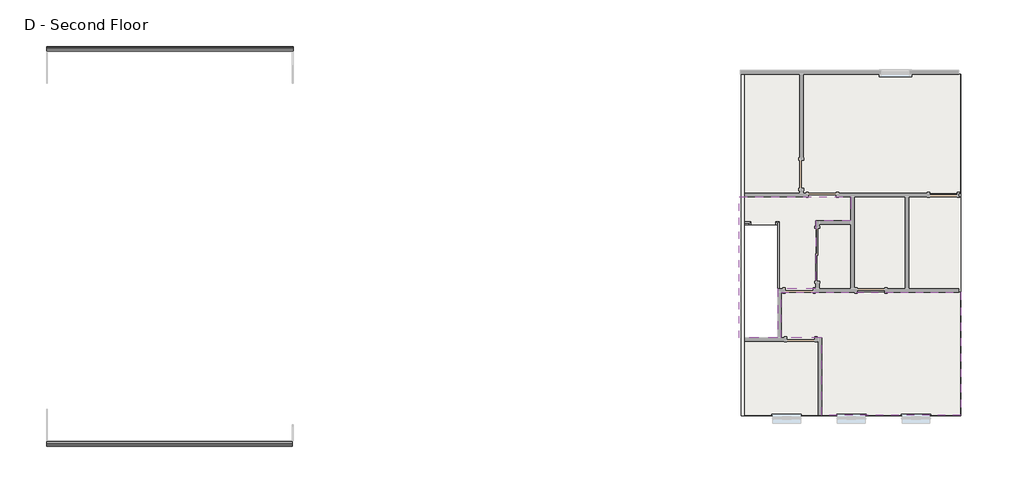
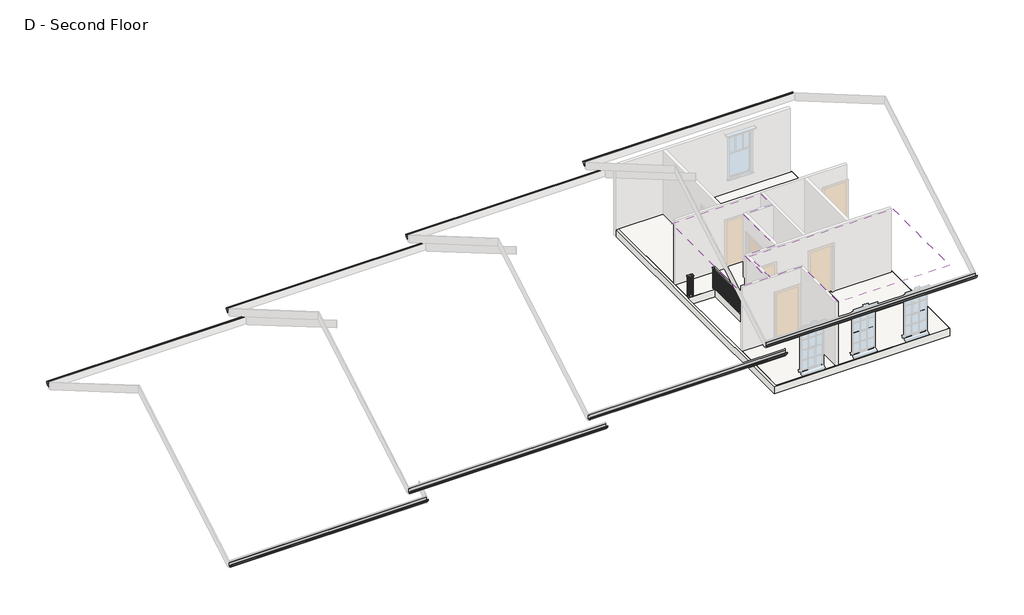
# One storey, part 2 of 2: 2 coverings, 2 railings, 2 slabs, 1 pipe segment.
"""IFC4 building model written with IfcOpenShell, lengths in millimetres."""

from ifc_helpers import new_model, si_unit, point, frame, frame_2d, origin, place, context, project, spatial, polyline, circle_curve, trimmed, segment, composite_curve, outline, extrude, faceted_brep, element, save

model = new_model("IFC4")

# Units and contexts
model_context = context("Model", 3, world=origin())
ifc_project = project(units=[si_unit("LENGTHUNIT", "METRE", prefix="MILLI")], contexts=[model_context])

# Site, building, storey
site = spatial("IfcSite", under=ifc_project)
building = spatial("IfcBuilding", under=site)
storey = spatial("IfcBuildingStorey", under=building, Name="D - Second Floor", Elevation=5200.65)

# Coverings
placement = place(None, origin())
element("IfcCovering", 1, ObjectType="GWB on Furring", at=placement, inside=storey, context=model_context, shape_type="SweptSolid", body=[
    extrude(outline(polyline([(17813.8120514, -7122.7539462), (13257.6870514, -7122.7539462), (13257.6870514, -4582.7539462), (11936.8870514, -4582.7539462), (11936.8870514, -3096.8539462), (17813.8120514, -3096.8539462), (17813.8120514, -7122.7539462)])), frame((0.0, 0.0, 7918.45), z_axis=(0.0, 0.0, 1.0), x_axis=(1.0, 0.0, 0.0)), (0.0, 0.0, 1.0), 31.75),
])
element("IfcCovering", 2, ObjectType="GWB on Furring", at=placement, inside=storey, context=model_context, shape_type="SweptSolid", body=[
    extrude(outline(polyline([(10565.2870514, -4582.7539462), (10565.2870514, 40.0460538), (14213.3620514, 40.0460538), (14213.3620514, -747.3539462), (13057.6620514, -747.3539462), (13057.6620514, -2982.5539462), (11822.5870514, -2982.5539462), (11822.5870514, -4582.7539462), (10565.2870514, -4582.7539462)])), frame((0.0, 0.0, 7918.45), z_axis=(0.0, 0.0, 1.0), x_axis=(1.0, 0.0, 0.0)), (0.0, 0.0, 1.0), 31.75),
])

# Pipe segment
element("IfcPipeSegment", 3, ObjectType="Gutter - Bevel 6\" x 6\"", at=placement, inside=storey, context=model_context, shape_type="SweptSolid", body=[
    extrude(outline(composite_curve([segment(polyline([(-7983.1789462, 5929.1694956), (-8059.3789462, 5929.1694956), (-8059.3789462, 5948.2194956)]), True, "CONTINUOUS"), segment(trimmed(circle_curve(frame_2d((-7979.9880787, 6059.7502961)), 136.9015314), [point((-8059.3789462, 5948.2194956))], [point((-8116.5289462, 6049.8194956))], False, "CARTESIAN"), True, "CONTINUOUS"), segment(polyline([(-8116.5289462, 6049.8194956), (-8135.5789462, 6049.8194956), (-8135.5789462, 6068.8694956), (-8116.5289462, 6068.8694956), (-8116.5289462, 6065.6944956), (-8132.4039462, 6065.6944956), (-8132.4039462, 6052.9944956), (-8113.5438512, 6052.9944956)]), True, "CONTINUOUS"), segment(trimmed(circle_curve(frame_2d((-7979.9880787, 6059.750296)), 133.7265314), [point((-8113.5438512, 6052.9944956))], [point((-8056.2039462, 5949.8688747))], True, "CARTESIAN"), True, "CONTINUOUS"), segment(polyline([(-8056.2039462, 5949.8688747), (-8056.2039462, 5932.3444956), (-7986.3539462, 5932.3444956), (-7986.3539462, 6081.5694956), (-7983.1789462, 6081.5694956), (-7983.1789462, 5929.1694956)]), True, "CONTINUOUS")], self_intersect=False)), frame((-12142.3129486, 0.0, 0.0), z_axis=(1.0, 0.0, 0.0), x_axis=(0.0, 1.0, 0.0)), (0.0, 0.0, 1.0), 8058.15),
    extrude(outline(composite_curve([segment(polyline([(-7983.1789462, 6538.7694956), (-8059.3789462, 6538.7694956), (-8059.3789462, 6557.8194956)]), True, "CONTINUOUS"), segment(trimmed(circle_curve(frame_2d((-7979.9880787, 6669.3502961)), 136.9015314), [point((-8059.3789462, 6557.8194956))], [point((-8116.5289462, 6659.4194956))], False, "CARTESIAN"), True, "CONTINUOUS"), segment(polyline([(-8116.5289462, 6659.4194956), (-8135.5789462, 6659.4194956), (-8135.5789462, 6678.4694956), (-8116.5289462, 6678.4694956), (-8116.5289462, 6675.2944956), (-8132.4039462, 6675.2944956), (-8132.4039462, 6662.5944956), (-8113.5438512, 6662.5944956)]), True, "CONTINUOUS"), segment(trimmed(circle_curve(frame_2d((-7979.9880787, 6669.350296)), 133.7265314), [point((-8113.5438512, 6662.5944956))], [point((-8056.2039462, 6559.4688747))], True, "CARTESIAN"), True, "CONTINUOUS"), segment(polyline([(-8056.2039462, 6559.4688747), (-8056.2039462, 6541.9444956), (-7986.3539462, 6541.9444956), (-7986.3539462, 6691.1694956), (-7983.1789462, 6691.1694956), (-7983.1789462, 6538.7694956)]), True, "CONTINUOUS")], self_intersect=False)), frame((-4801.7129486, 0.0, 0.0), z_axis=(1.0, 0.0, 0.0), x_axis=(0.0, 1.0, 0.0)), (0.0, 0.0, 1.0), 8058.15),
    extrude(outline(composite_curve([segment(polyline([(-7983.1789462, 7148.3694956), (-8059.3789462, 7148.3694956), (-8059.3789462, 7167.4194956)]), True, "CONTINUOUS"), segment(trimmed(circle_curve(frame_2d((-7979.9880787, 7278.9502961)), 136.9015314), [point((-8059.3789462, 7167.4194956))], [point((-8116.5289462, 7269.0194956))], False, "CARTESIAN"), True, "CONTINUOUS"), segment(polyline([(-8116.5289462, 7269.0194956), (-8135.5789462, 7269.0194956), (-8135.5789462, 7288.0694956), (-8116.5289462, 7288.0694956), (-8116.5289462, 7284.8944956), (-8132.4039462, 7284.8944956), (-8132.4039462, 7272.1944956), (-8113.5438512, 7272.1944956)]), True, "CONTINUOUS"), segment(trimmed(circle_curve(frame_2d((-7979.9880787, 7278.950296)), 133.7265314), [point((-8113.5438512, 7272.1944956))], [point((-8056.2039462, 7169.0688747))], True, "CARTESIAN"), True, "CONTINUOUS"), segment(polyline([(-8056.2039462, 7169.0688747), (-8056.2039462, 7151.5444956), (-7986.3539462, 7151.5444956), (-7986.3539462, 7300.7694956), (-7983.1789462, 7300.7694956), (-7983.1789462, 7148.3694956)]), True, "CONTINUOUS")], self_intersect=False)), frame((2538.8870514, 0.0, 0.0), z_axis=(1.0, 0.0, 0.0), x_axis=(0.0, 1.0, 0.0)), (0.0, 0.0, 1.0), 8058.15),
    extrude(outline(composite_curve([segment(polyline([(-7983.1789462, 7757.9694956), (-8059.3789462, 7757.9694956), (-8059.3789462, 7777.0194956)]), True, "CONTINUOUS"), segment(trimmed(circle_curve(frame_2d((-7979.9880787, 7888.5502961)), 136.9015314), [point((-8059.3789462, 7777.0194956))], [point((-8116.5289462, 7878.6194956))], False, "CARTESIAN"), True, "CONTINUOUS"), segment(polyline([(-8116.5289462, 7878.6194956), (-8135.5789462, 7878.6194956), (-8135.5789462, 7897.6694956), (-8116.5289462, 7897.6694956), (-8116.5289462, 7894.4944956), (-8132.4039462, 7894.4944956), (-8132.4039462, 7881.7944956), (-8113.5438512, 7881.7944956)]), True, "CONTINUOUS"), segment(trimmed(circle_curve(frame_2d((-7979.9880787, 7888.550296)), 133.7265314), [point((-8113.5438512, 7881.7944956))], [point((-8056.2039462, 7778.6688747))], True, "CARTESIAN"), True, "CONTINUOUS"), segment(polyline([(-8056.2039462, 7778.6688747), (-8056.2039462, 7761.1444956), (-7986.3539462, 7761.1444956), (-7986.3539462, 7910.3694956), (-7983.1789462, 7910.3694956), (-7983.1789462, 7757.9694956)]), True, "CONTINUOUS")], self_intersect=False)), frame((9790.5870514, 0.0, 0.0), z_axis=(1.0, 0.0, 0.0), x_axis=(0.0, 1.0, 0.0)), (0.0, 0.0, 1.0), 8572.5),
    extrude(outline(composite_curve([segment(polyline([(4802.5460538, 7757.9694956), (4802.5460538, 7910.3694956), (4805.7210538, 7910.3694956), (4805.7210538, 7761.1444956), (4875.5710538, 7761.1444956), (4875.5710538, 7778.6688747)]), True, "CONTINUOUS"), segment(trimmed(circle_curve(frame_2d((4799.3551862, 7888.550296)), 133.7265314), [point((4875.5710538, 7778.6688747))], [point((4932.9109587, 7881.7944956))], True, "CARTESIAN"), True, "CONTINUOUS"), segment(polyline([(4932.9109587, 7881.7944956), (4951.7710538, 7881.7944956), (4951.7710538, 7894.4944956), (4935.8960538, 7894.4944956), (4935.8960538, 7897.6694956), (4954.9460538, 7897.6694956), (4954.9460538, 7878.6194956), (4935.8960538, 7878.6194956)]), True, "CONTINUOUS"), segment(trimmed(circle_curve(frame_2d((4799.3551862, 7888.5502961)), 136.9015314), [point((4935.8960538, 7878.6194956))], [point((4878.7460538, 7777.0194956))], False, "CARTESIAN"), True, "CONTINUOUS"), segment(polyline([(4878.7460538, 7777.0194956), (4878.7460538, 7757.9694956), (4802.5460538, 7757.9694956)]), True, "CONTINUOUS")], self_intersect=False)), frame((9790.5870514, 0.0, 0.0), z_axis=(1.0, 0.0, 0.0), x_axis=(0.0, 1.0, 0.0)), (0.0, 0.0, 1.0), 8572.5),
    extrude(outline(composite_curve([segment(polyline([(4802.5460538, 7148.3694956), (4802.5460538, 7300.7694956), (4805.7210538, 7300.7694956), (4805.7210538, 7151.5444956), (4875.5710538, 7151.5444956), (4875.5710538, 7169.0688747)]), True, "CONTINUOUS"), segment(trimmed(circle_curve(frame_2d((4799.3551862, 7278.950296)), 133.7265314), [point((4875.5710538, 7169.0688747))], [point((4932.9109587, 7272.1944956))], True, "CARTESIAN"), True, "CONTINUOUS"), segment(polyline([(4932.9109587, 7272.1944956), (4951.7710538, 7272.1944956), (4951.7710538, 7284.8944956), (4935.8960538, 7284.8944956), (4935.8960538, 7288.0694956), (4954.9460538, 7288.0694956), (4954.9460538, 7269.0194956), (4935.8960538, 7269.0194956)]), True, "CONTINUOUS"), segment(trimmed(circle_curve(frame_2d((4799.3551862, 7278.9502961)), 136.9015314), [point((4935.8960538, 7269.0194956))], [point((4878.7460538, 7167.4194956))], False, "CARTESIAN"), True, "CONTINUOUS"), segment(polyline([(4878.7460538, 7167.4194956), (4878.7460538, 7148.3694956), (4802.5460538, 7148.3694956)]), True, "CONTINUOUS")], self_intersect=False)), frame((2538.8870514, 0.0, 0.0), z_axis=(1.0, 0.0, 0.0), x_axis=(0.0, 1.0, 0.0)), (0.0, 0.0, 1.0), 8077.2),
    extrude(outline(composite_curve([segment(polyline([(4802.5460538, 6538.7694956), (4802.5460538, 6691.1694956), (4805.7210538, 6691.1694956), (4805.7210538, 6541.9444956), (4875.5710538, 6541.9444956), (4875.5710538, 6559.4688747)]), True, "CONTINUOUS"), segment(trimmed(circle_curve(frame_2d((4799.3551862, 6669.350296)), 133.7265314), [point((4875.5710538, 6559.4688747))], [point((4932.9109587, 6662.5944956))], True, "CARTESIAN"), True, "CONTINUOUS"), segment(polyline([(4932.9109587, 6662.5944956), (4951.7710538, 6662.5944956), (4951.7710538, 6675.2944956), (4935.8960538, 6675.2944956), (4935.8960538, 6678.4694956), (4954.9460538, 6678.4694956), (4954.9460538, 6659.4194956), (4935.8960538, 6659.4194956)]), True, "CONTINUOUS"), segment(trimmed(circle_curve(frame_2d((4799.3551862, 6669.3502961)), 136.9015314), [point((4935.8960538, 6659.4194956))], [point((4878.7460538, 6557.8194956))], False, "CARTESIAN"), True, "CONTINUOUS"), segment(polyline([(4878.7460538, 6557.8194956), (4878.7460538, 6538.7694956), (4802.5460538, 6538.7694956)]), True, "CONTINUOUS")], self_intersect=False)), frame((-4801.7129486, 0.0, 0.0), z_axis=(1.0, 0.0, 0.0), x_axis=(0.0, 1.0, 0.0)), (0.0, 0.0, 1.0), 8077.2),
    extrude(outline(composite_curve([segment(polyline([(4802.5460538, 5929.1694956), (4802.5460538, 6081.5694956), (4805.7210538, 6081.5694956), (4805.7210538, 5932.3444956), (4875.5710538, 5932.3444956), (4875.5710538, 5949.8688747)]), True, "CONTINUOUS"), segment(trimmed(circle_curve(frame_2d((4799.3551862, 6059.750296)), 133.7265314), [point((4875.5710538, 5949.8688747))], [point((4932.9109587, 6052.9944956))], True, "CARTESIAN"), True, "CONTINUOUS"), segment(polyline([(4932.9109587, 6052.9944956), (4951.7710538, 6052.9944956), (4951.7710538, 6065.6944956), (4935.8960538, 6065.6944956), (4935.8960538, 6068.8694956), (4954.9460538, 6068.8694956), (4954.9460538, 6049.8194956), (4935.8960538, 6049.8194956)]), True, "CONTINUOUS"), segment(trimmed(circle_curve(frame_2d((4799.3551862, 6059.7502961)), 136.9015314), [point((4935.8960538, 6049.8194956))], [point((4878.7460538, 5948.2194956))], False, "CARTESIAN"), True, "CONTINUOUS"), segment(polyline([(4878.7460538, 5948.2194956), (4878.7460538, 5929.1694956), (4802.5460538, 5929.1694956)]), True, "CONTINUOUS")], self_intersect=False)), frame((-12142.3129486, 0.0, 0.0), z_axis=(1.0, 0.0, 0.0), x_axis=(0.0, 1.0, 0.0)), (0.0, 0.0, 1.0), 8077.2),
])

# Railings
element("IfcRailing", 4, ObjectType="Handrail - Rectangular", at=placement, inside=storey, context=model_context, shape_type="SolidModel", body=[
    faceted_brep([(10730.3870514, -836.2539462, 6115.05), (10730.3870514, -785.4539462, 6115.05), (10730.3870514, -785.4539462, 6064.25), (10730.3870514, -836.2539462, 6064.25), (10889.1370514, -836.2539462, 6064.25), (10889.1370514, -836.2539462, 6115.05), (10939.9370514, -785.4539462, 6064.25), (10939.9370514, -785.4539462, 6115.05), (10889.1370514, -887.0539462, 6115.05), (10889.1370514, -887.0539462, 6064.25), (10939.9370514, -887.0539462, 6064.25), (10939.9370514, -887.0539462, 6115.05)], [[[0, 1, 2, 3]], [[4, 5, 0, 3]], [[6, 4, 3, 2]], [[7, 6, 2, 1]], [[5, 7, 1, 0]], [[8, 9, 10, 11]], [[9, 8, 5, 4]], [[10, 9, 4, 6]], [[11, 10, 6, 7]], [[8, 11, 7, 5]]]),
    extrude(outline(polyline([(10822.4620514, -801.3289462), (10822.4620514, -820.3789462), (10803.4120514, -820.3789462), (10803.4120514, -801.3289462), (10822.4620514, -801.3289462)])), frame((0.0, 0.0, 5200.65), z_axis=(0.0, 0.0, 1.0), x_axis=(1.0, 0.0, 0.0)), (0.0, 0.0, 1.0), 863.6),
    extrude(outline(polyline([(10924.0620514, -820.3789462), (10905.0120514, -820.3789462), (10905.0120514, -801.3289462), (10924.0620514, -801.3289462), (10924.0620514, -820.3789462)])), frame((0.0, 0.0, 5200.65), z_axis=(0.0, 0.0, 1.0), x_axis=(1.0, 0.0, 0.0)), (0.0, 0.0, 1.0), 863.6),
    extrude(outline(polyline([(10749.4370514, -801.3289462), (10749.4370514, -820.3789462), (10730.3870514, -820.3789462), (10730.3870514, -801.3289462), (10749.4370514, -801.3289462)])), frame((0.0, 0.0, 5200.65), z_axis=(0.0, 0.0, 1.0), x_axis=(1.0, 0.0, 0.0)), (0.0, 0.0, 1.0), 863.6),
    extrude(outline(polyline([(10924.0620514, -887.0539462), (10905.0120514, -887.0539462), (10905.0120514, -868.0039462), (10924.0620514, -868.0039462), (10924.0620514, -887.0539462)])), frame((0.0, 0.0, 5200.65), z_axis=(0.0, 0.0, 1.0), x_axis=(1.0, 0.0, 0.0)), (0.0, 0.0, 1.0), 863.6),
])
element("IfcRailing", 5, ObjectType="Handrail - Rectangular", at=placement, inside=storey, context=model_context, shape_type="SolidModel", body=[
    faceted_brep([(11752.7370514, -887.0539462, 6115.05), (11752.7370514, -887.0539462, 6064.25), (11803.5370514, -887.0539462, 6064.25), (11803.5370514, -887.0539462, 6115.05), (11752.7370514, -785.4539462, 6115.05), (11752.7370514, -785.4539462, 6064.25), (11803.5370514, -836.2539462, 6064.25), (11803.5370514, -836.2539462, 6115.05), (11870.9368362, -2982.5539462, 6115.05), (11820.1368362, -2982.5539462, 6115.05), (11820.1368362, -2982.5539462, 6064.25), (11870.9368362, -2982.5539462, 6064.25), (11870.9368362, -785.4539462, 6064.25), (11870.9368362, -785.4539462, 6115.05), (11820.1368362, -836.2539462, 6064.25), (11820.1368362, -836.2539462, 6115.05)], [[[0, 1, 2, 3]], [[1, 0, 4, 5]], [[2, 1, 5, 6]], [[3, 2, 6, 7]], [[0, 3, 7, 4]], [[8, 9, 10, 11]], [[12, 13, 8, 11]], [[14, 12, 11, 10]], [[15, 14, 10, 9]], [[13, 15, 9, 8]], [[5, 4, 13, 12]], [[6, 5, 12, 14]], [[7, 6, 14, 15]], [[4, 7, 15, 13]]]),
    extrude(outline(polyline([(11836.0118362, -2934.9289462), (11855.0618362, -2934.9289462), (11855.0618362, -2953.9789462), (11836.0118362, -2953.9789462), (11836.0118362, -2934.9289462)])), frame((0.0, 0.0, 5200.65), z_axis=(0.0, 0.0, 1.0), x_axis=(1.0, 0.0, 0.0)), (0.0, 0.0, 1.0), 863.6),
    extrude(outline(polyline([(11836.0118362, -2833.3289462), (11855.0618362, -2833.3289462), (11855.0618362, -2852.3789462), (11836.0118362, -2852.3789462), (11836.0118362, -2833.3289462)])), frame((0.0, 0.0, 5200.65), z_axis=(0.0, 0.0, 1.0), x_axis=(1.0, 0.0, 0.0)), (0.0, 0.0, 1.0), 863.6),
    extrude(outline(polyline([(11836.0118362, -2731.7289462), (11855.0618362, -2731.7289462), (11855.0618362, -2750.7789462), (11836.0118362, -2750.7789462), (11836.0118362, -2731.7289462)])), frame((0.0, 0.0, 5200.65), z_axis=(0.0, 0.0, 1.0), x_axis=(1.0, 0.0, 0.0)), (0.0, 0.0, 1.0), 863.6),
    extrude(outline(polyline([(11836.0118362, -2630.1289462), (11855.0618362, -2630.1289462), (11855.0618362, -2649.1789462), (11836.0118362, -2649.1789462), (11836.0118362, -2630.1289462)])), frame((0.0, 0.0, 5200.65), z_axis=(0.0, 0.0, 1.0), x_axis=(1.0, 0.0, 0.0)), (0.0, 0.0, 1.0), 863.6),
    extrude(outline(polyline([(11836.0118362, -2528.5289462), (11855.0618362, -2528.5289462), (11855.0618362, -2547.5789462), (11836.0118362, -2547.5789462), (11836.0118362, -2528.5289462)])), frame((0.0, 0.0, 5200.65), z_axis=(0.0, 0.0, 1.0), x_axis=(1.0, 0.0, 0.0)), (0.0, 0.0, 1.0), 863.6),
    extrude(outline(polyline([(11836.0118362, -2426.9289462), (11855.0618362, -2426.9289462), (11855.0618362, -2445.9789462), (11836.0118362, -2445.9789462), (11836.0118362, -2426.9289462)])), frame((0.0, 0.0, 5200.65), z_axis=(0.0, 0.0, 1.0), x_axis=(1.0, 0.0, 0.0)), (0.0, 0.0, 1.0), 863.6),
    extrude(outline(polyline([(11836.0118362, -2325.3289462), (11855.0618362, -2325.3289462), (11855.0618362, -2344.3789462), (11836.0118362, -2344.3789462), (11836.0118362, -2325.3289462)])), frame((0.0, 0.0, 5200.65), z_axis=(0.0, 0.0, 1.0), x_axis=(1.0, 0.0, 0.0)), (0.0, 0.0, 1.0), 863.6),
    extrude(outline(polyline([(11836.0118362, -2223.7289462), (11855.0618362, -2223.7289462), (11855.0618362, -2242.7789462), (11836.0118362, -2242.7789462), (11836.0118362, -2223.7289462)])), frame((0.0, 0.0, 5200.65), z_axis=(0.0, 0.0, 1.0), x_axis=(1.0, 0.0, 0.0)), (0.0, 0.0, 1.0), 863.6),
    extrude(outline(polyline([(11836.0118362, -2122.1289462), (11855.0618362, -2122.1289462), (11855.0618362, -2141.1789462), (11836.0118362, -2141.1789462), (11836.0118362, -2122.1289462)])), frame((0.0, 0.0, 5200.65), z_axis=(0.0, 0.0, 1.0), x_axis=(1.0, 0.0, 0.0)), (0.0, 0.0, 1.0), 863.6),
    extrude(outline(polyline([(11836.0118362, -2020.5289462), (11855.0618362, -2020.5289462), (11855.0618362, -2039.5789462), (11836.0118362, -2039.5789462), (11836.0118362, -2020.5289462)])), frame((0.0, 0.0, 5200.65), z_axis=(0.0, 0.0, 1.0), x_axis=(1.0, 0.0, 0.0)), (0.0, 0.0, 1.0), 863.6),
    extrude(outline(polyline([(11836.0118362, -1918.9289462), (11855.0618362, -1918.9289462), (11855.0618362, -1937.9789462), (11836.0118362, -1937.9789462), (11836.0118362, -1918.9289462)])), frame((0.0, 0.0, 5200.65), z_axis=(0.0, 0.0, 1.0), x_axis=(1.0, 0.0, 0.0)), (0.0, 0.0, 1.0), 863.6),
    extrude(outline(polyline([(11836.0118362, -1817.3289462), (11855.0618362, -1817.3289462), (11855.0618362, -1836.3789462), (11836.0118362, -1836.3789462), (11836.0118362, -1817.3289462)])), frame((0.0, 0.0, 5200.65), z_axis=(0.0, 0.0, 1.0), x_axis=(1.0, 0.0, 0.0)), (0.0, 0.0, 1.0), 863.6),
    extrude(outline(polyline([(11836.0118362, -1715.7289462), (11855.0618362, -1715.7289462), (11855.0618362, -1734.7789462), (11836.0118362, -1734.7789462), (11836.0118362, -1715.7289462)])), frame((0.0, 0.0, 5200.65), z_axis=(0.0, 0.0, 1.0), x_axis=(1.0, 0.0, 0.0)), (0.0, 0.0, 1.0), 863.6),
    extrude(outline(polyline([(11836.0118362, -1614.1289462), (11855.0618362, -1614.1289462), (11855.0618362, -1633.1789462), (11836.0118362, -1633.1789462), (11836.0118362, -1614.1289462)])), frame((0.0, 0.0, 5200.65), z_axis=(0.0, 0.0, 1.0), x_axis=(1.0, 0.0, 0.0)), (0.0, 0.0, 1.0), 863.6),
    extrude(outline(polyline([(11836.0118362, -1512.5289462), (11855.0618362, -1512.5289462), (11855.0618362, -1531.5789462), (11836.0118362, -1531.5789462), (11836.0118362, -1512.5289462)])), frame((0.0, 0.0, 5200.65), z_axis=(0.0, 0.0, 1.0), x_axis=(1.0, 0.0, 0.0)), (0.0, 0.0, 1.0), 863.6),
    extrude(outline(polyline([(11836.0118362, -1410.9289462), (11855.0618362, -1410.9289462), (11855.0618362, -1429.9789462), (11836.0118362, -1429.9789462), (11836.0118362, -1410.9289462)])), frame((0.0, 0.0, 5200.65), z_axis=(0.0, 0.0, 1.0), x_axis=(1.0, 0.0, 0.0)), (0.0, 0.0, 1.0), 863.6),
    extrude(outline(polyline([(11836.0118362, -1309.3289462), (11855.0618362, -1309.3289462), (11855.0618362, -1328.3789462), (11836.0118362, -1328.3789462), (11836.0118362, -1309.3289462)])), frame((0.0, 0.0, 5200.65), z_axis=(0.0, 0.0, 1.0), x_axis=(1.0, 0.0, 0.0)), (0.0, 0.0, 1.0), 863.6),
    extrude(outline(polyline([(11836.0118362, -1207.7289462), (11855.0618362, -1207.7289462), (11855.0618362, -1226.7789462), (11836.0118362, -1226.7789462), (11836.0118362, -1207.7289462)])), frame((0.0, 0.0, 5200.65), z_axis=(0.0, 0.0, 1.0), x_axis=(1.0, 0.0, 0.0)), (0.0, 0.0, 1.0), 863.6),
    extrude(outline(polyline([(11836.0118362, -1106.1289462), (11855.0618362, -1106.1289462), (11855.0618362, -1125.1789462), (11836.0118362, -1125.1789462), (11836.0118362, -1106.1289462)])), frame((0.0, 0.0, 5200.65), z_axis=(0.0, 0.0, 1.0), x_axis=(1.0, 0.0, 0.0)), (0.0, 0.0, 1.0), 863.6),
    extrude(outline(polyline([(11836.0118362, -1004.5289462), (11855.0618362, -1004.5289462), (11855.0618362, -1023.5789462), (11836.0118362, -1023.5789462), (11836.0118362, -1004.5289462)])), frame((0.0, 0.0, 5200.65), z_axis=(0.0, 0.0, 1.0), x_axis=(1.0, 0.0, 0.0)), (0.0, 0.0, 1.0), 863.6),
    extrude(outline(polyline([(11836.0118362, -902.9289462), (11855.0618362, -902.9289462), (11855.0618362, -921.9789462), (11836.0118362, -921.9789462), (11836.0118362, -902.9289462)])), frame((0.0, 0.0, 5200.65), z_axis=(0.0, 0.0, 1.0), x_axis=(1.0, 0.0, 0.0)), (0.0, 0.0, 1.0), 863.6),
    extrude(outline(polyline([(11836.0118362, -820.3789462), (11836.0118362, -801.3289462), (11855.0618362, -801.3289462), (11855.0618362, -820.3789462), (11836.0118362, -820.3789462)])), frame((0.0, 0.0, 5200.65), z_axis=(0.0, 0.0, 1.0), x_axis=(1.0, 0.0, 0.0)), (0.0, 0.0, 1.0), 863.6),
    extrude(outline(polyline([(11787.6620514, -820.3789462), (11768.6120514, -820.3789462), (11768.6120514, -801.3289462), (11787.6620514, -801.3289462), (11787.6620514, -820.3789462)])), frame((0.0, 0.0, 5200.65), z_axis=(0.0, 0.0, 1.0), x_axis=(1.0, 0.0, 0.0)), (0.0, 0.0, 1.0), 863.6),
    extrude(outline(polyline([(11836.0118362, -2963.5039462), (11855.0618362, -2963.5039462), (11855.0618362, -2982.5539462), (11836.0118362, -2982.5539462), (11836.0118362, -2963.5039462)])), frame((0.0, 0.0, 5200.65), z_axis=(0.0, 0.0, 1.0), x_axis=(1.0, 0.0, 0.0)), (0.0, 0.0, 1.0), 863.6),
    extrude(outline(polyline([(11787.6620514, -887.0539462), (11768.6120514, -887.0539462), (11768.6120514, -868.0039462), (11787.6620514, -868.0039462), (11787.6620514, -887.0539462)])), frame((0.0, 0.0, 5200.65), z_axis=(0.0, 0.0, 1.0), x_axis=(1.0, 0.0, 0.0)), (0.0, 0.0, 1.0), 863.6),
])

# Slabs
element("IfcSlab", 6, ObjectType="Wood Truss  Joist 12\"", at=placement, inside=storey, context=model_context, shape_type="SweptSolid", body=[
    extrude(outline(polyline([(10628.7870514, 4053.2460538), (17810.6370514, 4053.2460538), (17810.6370514, -7135.4539462), (10628.7870514, -7135.4539462), (10628.7870514, 4053.2460538)]), holes=[polyline([(10730.3870514, -4582.7539462), (11822.5870514, -4582.7539462), (11822.5870514, -887.0539462), (10730.3870514, -887.0539462), (10730.3870514, -4582.7539462)])]), frame((0.0, 0.0, 4879.975), z_axis=(0.0, 0.0, 1.0), x_axis=(1.0, 0.0, 0.0)), (0.0, 0.0, 1.0), 320.675),
])
element("IfcSlab", 7, ObjectType="Carpet Finish - 1/8\"", at=placement, inside=storey, context=model_context, shape_type="SweptSolid", body=[
    extrude(outline(polyline([(10730.3870514, -4697.0539462), (12112.9955954, -4697.0539462), (12112.9955954, -4570.0539462), (11936.8870514, -4570.0539462), (11936.8870514, -3096.8539462), (12063.8870514, -3096.8539462), (12063.8870514, -2982.5539462), (11822.5870514, -2982.5539462), (11822.5870514, -887.0539462), (10730.3870514, -887.0539462), (10730.3870514, 40.0460538), (12821.1245514, 40.0460538), (12821.1245514, 154.3460538), (12648.0870514, 154.3460538), (12648.0870514, 313.0960538), (12533.7870514, 313.0960538), (12533.7870514, 154.3460538), (10730.3870514, 154.3460538), (10730.3870514, 4040.5460538), (12533.7870514, 4040.5460538), (12533.7870514, 1227.4960538), (12648.0870514, 1227.4960538), (12648.0870514, 4040.5460538), (17794.7620514, 4040.5460538), (17794.7620514, 154.3460538), (17709.0370514, 154.3460538), (16794.6370514, 154.3460538), (13735.5245514, 154.3460538), (13735.5245514, 40.0460538), (14213.3620514, 40.0460538), (14213.3620514, -747.3539462), (13057.6620514, -747.3539462), (13057.6620514, -2982.5539462), (12978.2870514, -2982.5539462), (12978.2870514, -3096.8539462), (14111.7620514, -3096.8539462), (15026.1620514, -3096.8539462), (17794.7620514, -3096.8539462), (17794.7620514, -7122.7539462), (13257.6870514, -7122.7539462), (13257.6870514, -4582.7539462), (13029.0870514, -4582.7539462), (13029.0870514, -4697.0539462), (13143.3870514, -4697.0539462), (13143.3870514, -7122.7539462), (10730.3870514, -7122.7539462), (10730.3870514, -4697.0539462)])), frame((0.0, 0.0, 5200.65), z_axis=(0.0, 0.0, 1.0), x_axis=(1.0, 0.0, 0.0)), (0.0, 0.0, 1.0), 3.175),
])

save(model, "model.ifc")
